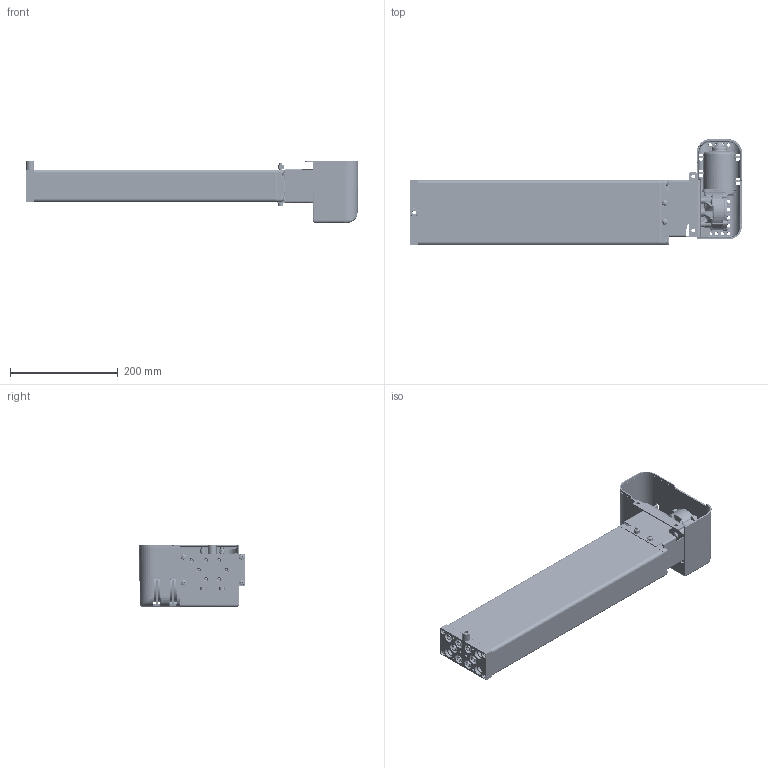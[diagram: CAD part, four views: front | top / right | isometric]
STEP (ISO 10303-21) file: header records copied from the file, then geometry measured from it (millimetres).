
FILE_DESCRIPTION(/* description */ ('Unknown'),/* implementation_level */ '2;1');
FILE_NAME(/* name */ '3X2.20210 Pumpe PB 7830 W mit Antrieb',/* time_stamp */ '2016-11-25T10:43:12+01:00',/* author */ ('Unknown'),/* organization */ ('Unknown'),/* preprocessor_version */ 'ST-DEVELOPER v16.7',/* originating_system */ 'DEX',/* authorisation */ $);
FILE_SCHEMA (('AUTOMOTIVE_DESIGN {1 0 10303 214 3 1 1}'));
Products named in the file (33): 102.00210; 115.10033; 125.00061; 115.00008; 142.00021; 125.00021; 142.00013; 125.00143; 115.00140; 126.00006; 122.00040; 119.00043; 126.00036; 127.00201; 127.00200; 127.00023; 124.00090; Getriebe; Ring; Schraube; Stator; Abdeckplatte; Antriebswelle; 128.00051; 123.00031; 142.00018; 142.00019; 142.00025; 142.00131; 123.00029; 142.00057; 142.00083; 142.00017
Assembly tree (54 placements, depth 3):
  102.00210
    115.10033  x7
      125.00061
      115.00008
      142.00021
      125.00021
    142.00013  x8
    125.00143
    115.00140
      126.00006
      122.00040
    119.00043
    126.00036
    127.00201
      127.00200
      127.00023
    124.00090
      Getriebe
      Ring
      Schraube
      Stator
      Abdeckplatte
      Antriebswelle
    128.00051
    123.00031
    142.00018  x2
    142.00019  x2
    142.00025  x2
    142.00131  x3
    123.00029
    142.00057
    142.00083  x4
    142.00017  x2
Bounding box: 616.45 x 196.04 x 115.45 mm (x, y, z)
Volume: 1125808.8 mm3; surface area: 718037.3 mm2
Topology: 61 solids, 63 shells, 4369 faces, 10949 edges, 6709 vertices
Faces by surface type: plane 1371, cylinder 1177, bspline 1040, cone 482, torus 202, sphere 97
Full cylindrical faces by diameter (mm): 2.5 x4, 3.2 x4, 3.5 x7, 3.9 x5, 4.1 x7, 4.134 x4, 4.2 x9, 4.4 x5, 4.5 x1, 4.917 x4, 5 x12, 5.5 x5, 5.8 x4, 6 x8, 6.4 x2, 6.8 x6, 6.917 x14, 7 x1, 8 x16, 8.5 x10, 9 x2, 9.5 x1, 9.8 x8, 10 x10, 10.3 x1, 10.32 x1, 10.4 x1, 10.5 x4, 11 x5, 12.5 x7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
Entity records: 165434 total; most frequent: CARTESIAN_POINT 80682, ORIENTED_EDGE 16058, DIRECTION 12091, EDGE_CURVE 8029, VERTEX_POINT 5273, AXIS2_PLACEMENT_3D 4680, FACE_BOUND 4022, EDGE_LOOP 4017
